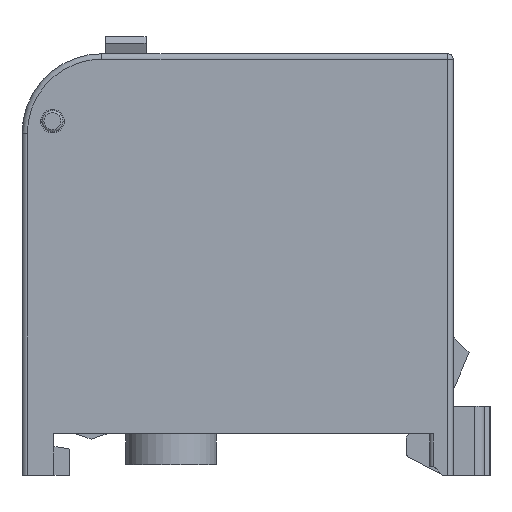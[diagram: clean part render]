
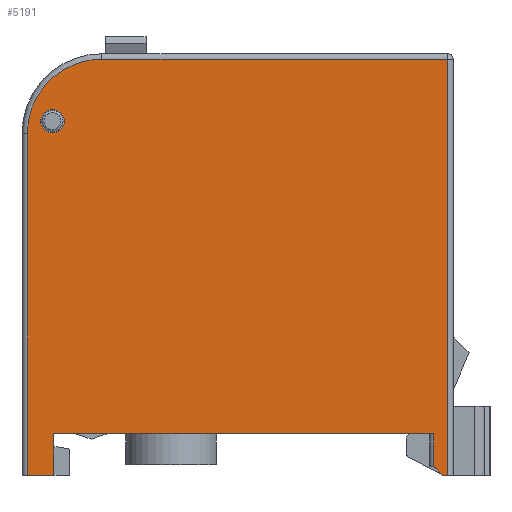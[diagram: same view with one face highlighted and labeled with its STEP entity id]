
A CAD part, left-side view. The second image highlights one B-rep face of the part: STEP entity #5191.
In plain terms, the highlighted planar face has unit normal (-1, 0, 0).
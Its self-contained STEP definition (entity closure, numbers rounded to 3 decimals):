
#4675=PLANE('',#16922);
#5116=FACE_BOUND('',#6607,.T.);
#5117=FACE_BOUND('',#6608,.T.);
#5191=ADVANCED_FACE('',(#5116,#5117),#4675,.T.);
#6607=EDGE_LOOP('',(#7599,#7600,#7601,#7602,#7603,#7604,#7605,#7606,#7607,
#7608));
#6608=EDGE_LOOP('',(#7609));
#7299=CIRCLE('',#16920,7.);
#7300=CIRCLE('',#16921,1.1);
#7599=ORIENTED_EDGE('',*,*,#12328,.F.);
#7600=ORIENTED_EDGE('',*,*,#12324,.F.);
#7601=ORIENTED_EDGE('',*,*,#12329,.F.);
#7602=ORIENTED_EDGE('',*,*,#12330,.F.);
#7603=ORIENTED_EDGE('',*,*,#12331,.T.);
#7604=ORIENTED_EDGE('',*,*,#12332,.F.);
#7605=ORIENTED_EDGE('',*,*,#12333,.T.);
#7606=ORIENTED_EDGE('',*,*,#12334,.T.);
#7607=ORIENTED_EDGE('',*,*,#12335,.T.);
#7608=ORIENTED_EDGE('',*,*,#12336,.T.);
#7609=ORIENTED_EDGE('',*,*,#12337,.T.);
#11167=VERTEX_POINT('',#21291);
#11168=VERTEX_POINT('',#21292);
#11171=VERTEX_POINT('',#21300);
#11172=VERTEX_POINT('',#21302);
#11173=VERTEX_POINT('',#21304);
#11174=VERTEX_POINT('',#21306);
#11175=VERTEX_POINT('',#21308);
#11176=VERTEX_POINT('',#21310);
#11177=VERTEX_POINT('',#21312);
#11178=VERTEX_POINT('',#21314);
#11179=VERTEX_POINT('',#21317);
#12324=EDGE_CURVE('',#11167,#11168,#14110,.T.);
#12328=EDGE_CURVE('',#11168,#11171,#14112,.T.);
#12329=EDGE_CURVE('',#11172,#11167,#7299,.T.);
#12330=EDGE_CURVE('',#11173,#11172,#14113,.T.);
#12331=EDGE_CURVE('',#11173,#11174,#14114,.T.);
#12332=EDGE_CURVE('',#11175,#11174,#14115,.T.);
#12333=EDGE_CURVE('',#11175,#11176,#14116,.T.);
#12334=EDGE_CURVE('',#11176,#11177,#14117,.T.);
#12335=EDGE_CURVE('',#11177,#11178,#14118,.T.);
#12336=EDGE_CURVE('',#11178,#11171,#14119,.T.);
#12337=EDGE_CURVE('',#11179,#11179,#7300,.T.);
#14110=LINE('',#21290,#15513);
#14112=LINE('',#21299,#15515);
#14113=LINE('',#21303,#15516);
#14114=LINE('',#21305,#15517);
#14115=LINE('',#21307,#15518);
#14116=LINE('',#21309,#15519);
#14117=LINE('',#21311,#15520);
#14118=LINE('',#21313,#15521);
#14119=LINE('',#21315,#15522);
#15513=VECTOR('',#17908,1.);
#15515=VECTOR('',#17916,1.);
#15516=VECTOR('',#17919,1.);
#15517=VECTOR('',#17920,1.);
#15518=VECTOR('',#17921,1.);
#15519=VECTOR('',#17922,1.);
#15520=VECTOR('',#17923,1.);
#15521=VECTOR('',#17924,1.);
#15522=VECTOR('',#17925,1.);
#16920=AXIS2_PLACEMENT_3D('',#21301,#17917,#17918);
#16921=AXIS2_PLACEMENT_3D('',#21316,#17926,#17927);
#16922=AXIS2_PLACEMENT_3D('',#21318,#17928,#17929);
#17908=DIRECTION('',(0.,-1.,0.));
#17916=DIRECTION('',(0.,0.,-1.));
#17917=DIRECTION('',(1.,0.,0.));
#17918=DIRECTION('',(0.,0.707,0.707));
#17919=DIRECTION('',(0.,0.,1.));
#17920=DIRECTION('',(0.,-1.,0.));
#17921=DIRECTION('',(0.,0.,-1.));
#17922=DIRECTION('',(0.,-1.,0.));
#17923=DIRECTION('',(0.,0.,-1.));
#17924=DIRECTION('',(0.,-0.707,-0.707));
#17925=DIRECTION('',(0.,-1.,0.));
#17926=DIRECTION('',(1.,0.,0.));
#17927=DIRECTION('',(0.,1.,0.));
#17928=DIRECTION('',(-1.,0.,0.));
#17929=DIRECTION('',(0.,1.,0.));
#21290=CARTESIAN_POINT('',(-54.325,25.98,31.679));
#21291=CARTESIAN_POINT('',(-54.325,25.98,31.679));
#21292=CARTESIAN_POINT('',(-54.325,-6.52,31.679));
#21299=CARTESIAN_POINT('',(-54.325,-6.52,6.579));
#21300=CARTESIAN_POINT('',(-54.325,-6.52,-7.421));
#21301=CARTESIAN_POINT('',(-54.325,25.98,24.679));
#21302=CARTESIAN_POINT('',(-54.325,32.98,24.679));
#21303=CARTESIAN_POINT('',(-54.325,32.98,6.579));
#21304=CARTESIAN_POINT('',(-54.325,32.98,-7.421));
#21305=CARTESIAN_POINT('',(-54.325,32.98,-7.421));
#21306=CARTESIAN_POINT('',(-54.325,30.48,-7.421));
#21307=CARTESIAN_POINT('',(-54.325,30.48,-3.521));
#21308=CARTESIAN_POINT('',(-54.325,30.48,-3.521));
#21309=CARTESIAN_POINT('',(-54.325,30.48,-3.521));
#21310=CARTESIAN_POINT('',(-54.325,-5.22,-3.521));
#21311=CARTESIAN_POINT('',(-54.325,-5.22,-3.521));
#21312=CARTESIAN_POINT('',(-54.325,-5.22,-6.621));
#21313=CARTESIAN_POINT('',(-54.325,-5.22,-6.621));
#21314=CARTESIAN_POINT('',(-54.325,-6.02,-7.421));
#21315=CARTESIAN_POINT('',(-54.325,-6.02,-7.421));
#21316=CARTESIAN_POINT('',(-54.325,30.617,25.856));
#21317=CARTESIAN_POINT('',(-54.325,29.517,25.856));
#21318=CARTESIAN_POINT('',(-54.325,12.684,19.019));
